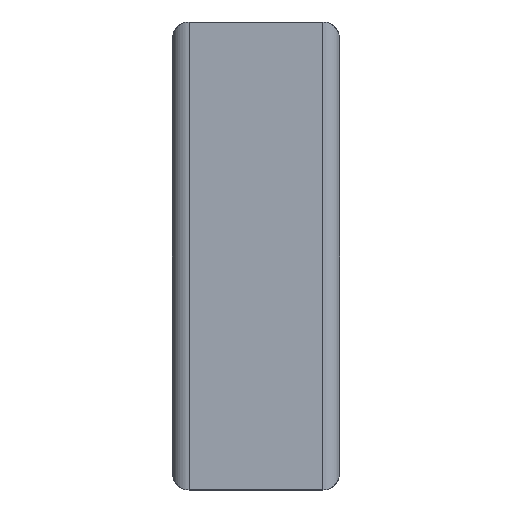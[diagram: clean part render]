
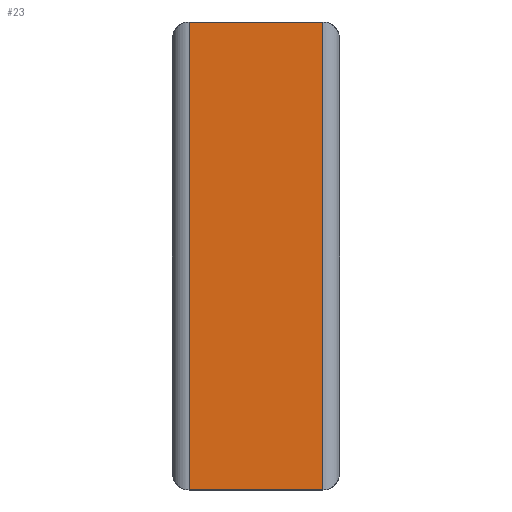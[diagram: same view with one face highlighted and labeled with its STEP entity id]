
A CAD part, left-side view. The second image highlights one B-rep face of the part: STEP entity #23.
In plain terms, the highlighted planar face has unit normal (-1, 0, 0).
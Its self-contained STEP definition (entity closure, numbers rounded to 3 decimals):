
#23 = ADVANCED_FACE ( 'NONE', ( #116 ), #233, .F. ) ;
#24 = ORIENTED_EDGE ( 'NONE', *, *, #511, .T. ) ;
#61 = ORIENTED_EDGE ( 'NONE', *, *, #201, .F. ) ;
#68 = VECTOR ( 'NONE', #463, 1000. ) ;
#85 = VECTOR ( 'NONE', #369, 1000. ) ;
#116 = FACE_OUTER_BOUND ( 'NONE', #277, .T. ) ;
#117 = CARTESIAN_POINT ( 'NONE',  ( -60., -2., 7. ) ) ;
#131 = AXIS2_PLACEMENT_3D ( 'NONE', #689, #280, #568 ) ;
#190 = VERTEX_POINT ( 'NONE', #608 ) ;
#201 = EDGE_CURVE ( 'NONE', #264, #190, #656, .T. ) ;
#204 = CARTESIAN_POINT ( 'NONE',  ( -60., 2., -7. ) ) ;
#233 = PLANE ( 'NONE',  #131 ) ;
#255 = CARTESIAN_POINT ( 'NONE',  ( -60., 2., -7. ) ) ;
#262 = CARTESIAN_POINT ( 'NONE',  ( -60., 2., 7. ) ) ;
#264 = VERTEX_POINT ( 'NONE', #262 ) ;
#277 = EDGE_LOOP ( 'NONE', ( #539, #24, #61, #576 ) ) ;
#280 = DIRECTION ( 'NONE',  ( 1., 0., 0. ) ) ;
#287 = VERTEX_POINT ( 'NONE', #255 ) ;
#307 = CARTESIAN_POINT ( 'NONE',  ( -60., 2.5, -7. ) ) ;
#359 = CARTESIAN_POINT ( 'NONE',  ( -60., -2., -7. ) ) ;
#369 = DIRECTION ( 'NONE',  ( 0., -1., 0. ) ) ;
#438 = EDGE_CURVE ( 'NONE', #264, #287, #480, .T. ) ;
#456 = LINE ( 'NONE', #117, #685 ) ;
#463 = DIRECTION ( 'NONE',  ( 0., -1., 0. ) ) ;
#480 = LINE ( 'NONE', #204, #643 ) ;
#511 = EDGE_CURVE ( 'NONE', #728, #190, #456, .T. ) ;
#539 = ORIENTED_EDGE ( 'NONE', *, *, #661, .T. ) ;
#568 = DIRECTION ( 'NONE',  ( 0., 0., -1. ) ) ;
#576 = ORIENTED_EDGE ( 'NONE', *, *, #438, .T. ) ;
#594 = LINE ( 'NONE', #307, #68 ) ;
#608 = CARTESIAN_POINT ( 'NONE',  ( -60., -2., 7. ) ) ;
#628 = DIRECTION ( 'NONE',  ( 0., 0., 1. ) ) ;
#643 = VECTOR ( 'NONE', #654, 1000. ) ;
#654 = DIRECTION ( 'NONE',  ( 0., 0., -1. ) ) ;
#656 = LINE ( 'NONE', #670, #85 ) ;
#661 = EDGE_CURVE ( 'NONE', #287, #728, #594, .T. ) ;
#670 = CARTESIAN_POINT ( 'NONE',  ( -60., 2.5, 7. ) ) ;
#685 = VECTOR ( 'NONE', #628, 1000. ) ;
#689 = CARTESIAN_POINT ( 'NONE',  ( -60., 2.5, -7. ) ) ;
#728 = VERTEX_POINT ( 'NONE', #359 ) ;
